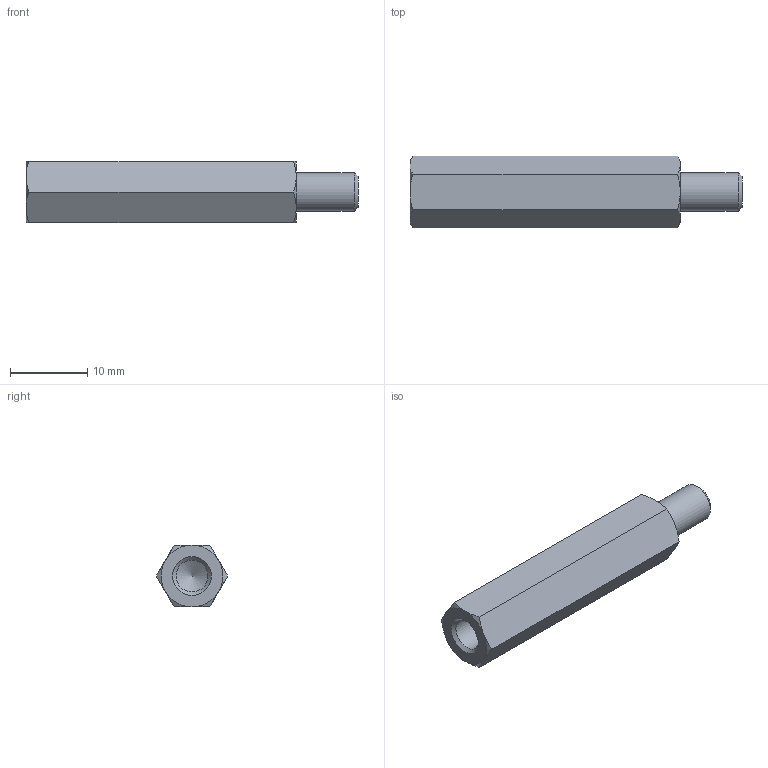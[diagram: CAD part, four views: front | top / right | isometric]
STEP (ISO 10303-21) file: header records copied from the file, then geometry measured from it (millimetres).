
FILE_DESCRIPTION( ( 'STEP AP203' ), '1' );
FILE_NAME( 'C:/Temp/Ganter_Step_05_03_2020/data/3_2/gn6220/gn6220_ni/Stainless Steel-Spacer GN 6220-NI-M5-35-B.stp', '2020-03-13T05:43:13', ( 'License CC BY-ND 4.0' ), ( 'CADENAS' ), ' ', 'PARTsolutions', ' ' );
FILE_SCHEMA( ( 'CONFIG_CONTROL_DESIGN' ) );
Length unit declared in the file: millimetre
Products named in the file (1): _Stainless Steel-Spacer GN 6220-NI-M5-35-B
Bounding box: 43 x 9.24 x 8 mm (x, y, z)
Volume: 1896.7 mm3; surface area: 1380 mm2
Topology: 1 solids, 1 shells, 26 faces, 55 edges, 32 vertices
Faces by surface type: cone 15, plane 9, cylinder 2
Full cylindrical faces by diameter (mm): 4.134 x1, 5 x1
Entity records: 746 total; most frequent: CARTESIAN_POINT 210, DIRECTION 96, ORIENTED_EDGE 96, EDGE_CURVE 48, AXIS2_PLACEMENT_3D 45, EDGE_LOOP 32, VERTEX_POINT 31, FACE_OUTER_BOUND 28
